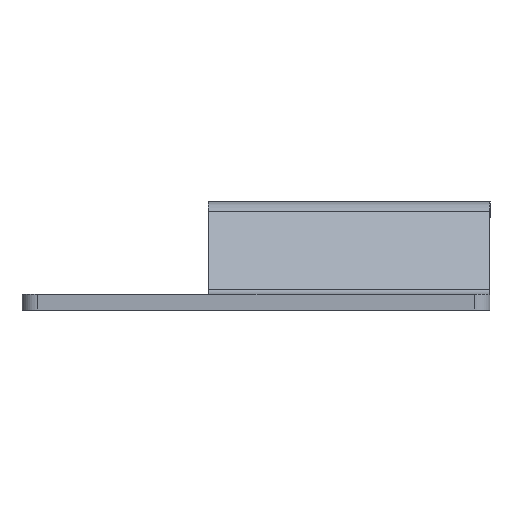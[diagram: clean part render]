
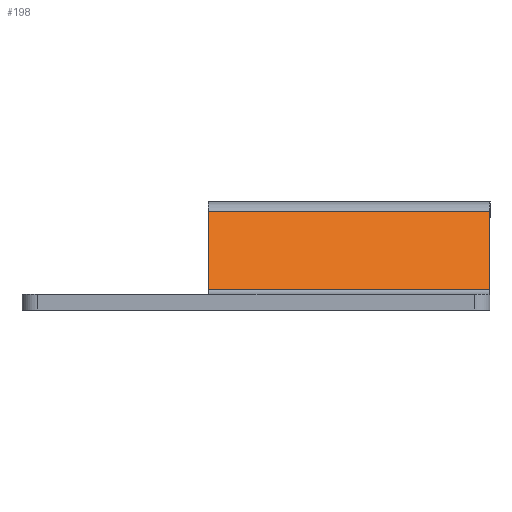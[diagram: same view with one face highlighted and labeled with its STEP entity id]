
A CAD part, left-side view. The second image highlights one B-rep face of the part: STEP entity #198.
In plain terms, the highlighted planar face has unit normal (-0.707, 0, 0.707).
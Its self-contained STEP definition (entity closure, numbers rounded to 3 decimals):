
#60 = EDGE_CURVE ( 'NONE', #110, #114, #1149, .T. ) ;
#87 = EDGE_CURVE ( 'NONE', #110, #109, #1194, .T. ) ;
#109 = VERTEX_POINT ( 'NONE', #1276 ) ;
#110 = VERTEX_POINT ( 'NONE', #1275 ) ;
#114 = VERTEX_POINT ( 'NONE', #1273 ) ;
#123 = EDGE_CURVE ( 'NONE', #207, #114, #1252, .T. ) ;
#156 = ORIENTED_EDGE ( 'NONE', *, *, #210, .T. ) ;
#178 = EDGE_LOOP ( 'NONE', ( #209, #199, #156, #183 ) ) ;
#183 = ORIENTED_EDGE ( 'NONE', *, *, #123, .T. ) ;
#198 = ADVANCED_FACE ( 'NONE', ( #1416 ), #1419, .F. ) ;
#199 = ORIENTED_EDGE ( 'NONE', *, *, #87, .T. ) ;
#207 = VERTEX_POINT ( 'NONE', #1421 ) ;
#209 = ORIENTED_EDGE ( 'NONE', *, *, #60, .F. ) ;
#210 = EDGE_CURVE ( 'NONE', #109, #207, #1388, .T. ) ;
#1146 = DIRECTION ( 'NONE',  ( 0., -1., 0. ) ) ;
#1147 = VECTOR ( 'NONE', #1146, 1000. ) ;
#1148 = CARTESIAN_POINT ( 'NONE',  ( -25.093, 4.321, 1.243 ) ) ;
#1149 = LINE ( 'NONE', #1148, #1147 ) ;
#1191 = DIRECTION ( 'NONE',  ( -0.707, 0., -0.707 ) ) ;
#1192 = VECTOR ( 'NONE', #1191, 1000. ) ;
#1193 = CARTESIAN_POINT ( 'NONE',  ( -24.214, 57.321, 2.121 ) ) ;
#1194 = LINE ( 'NONE', #1193, #1192 ) ;
#1231 = DIRECTION ( 'NONE',  ( 0.707, 0., 0.707 ) ) ;
#1232 = VECTOR ( 'NONE', #1231, 1000. ) ;
#1233 = CARTESIAN_POINT ( 'NONE',  ( -24.214, 4.321, 2.121 ) ) ;
#1252 = LINE ( 'NONE', #1233, #1232 ) ;
#1273 = CARTESIAN_POINT ( 'NONE',  ( -25.093, 4.321, 1.243 ) ) ;
#1275 = CARTESIAN_POINT ( 'NONE',  ( -25.093, 57.321, 1.243 ) ) ;
#1276 = CARTESIAN_POINT ( 'NONE',  ( -39.77, 57.321, -13.435 ) ) ;
#1388 = LINE ( 'NONE', #1403, #1407 ) ;
#1403 = CARTESIAN_POINT ( 'NONE',  ( -39.77, 4.321, -13.435 ) ) ;
#1404 = DIRECTION ( 'NONE',  ( 0., -1., 0. ) ) ;
#1407 = VECTOR ( 'NONE', #1404, 1000. ) ;
#1415 = DIRECTION ( 'NONE',  ( -0.707, 0., -0.707 ) ) ;
#1416 = FACE_OUTER_BOUND ( 'NONE', #178, .T. ) ;
#1417 = AXIS2_PLACEMENT_3D ( 'NONE', #1420, #1418, #1415 ) ;
#1418 = DIRECTION ( 'NONE',  ( 0.707, 0., -0.707 ) ) ;
#1419 = PLANE ( 'NONE',  #1417 ) ;
#1420 = CARTESIAN_POINT ( 'NONE',  ( -24.214, 4.321, 2.121 ) ) ;
#1421 = CARTESIAN_POINT ( 'NONE',  ( -39.77, 4.321, -13.435 ) ) ;
